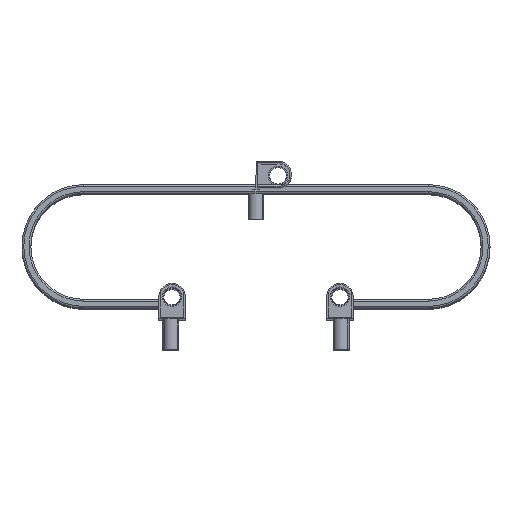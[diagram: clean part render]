
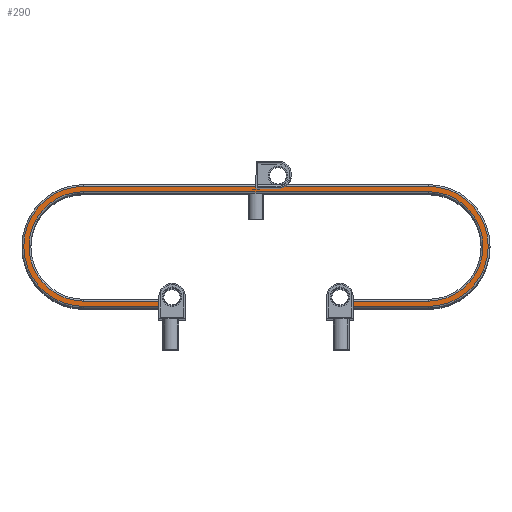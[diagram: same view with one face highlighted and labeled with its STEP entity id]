
A CAD part, top view. The second image highlights one B-rep face of the part: STEP entity #290.
In plain terms, the highlighted planar face has unit normal (0, 0, 1).
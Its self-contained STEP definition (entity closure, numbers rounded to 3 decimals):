
#290 = ADVANCED_FACE( '', ( #378 ), #379, .T. );
#378 = FACE_OUTER_BOUND( '', #516, .T. );
#379 = PLANE( '', #517 );
#516 = EDGE_LOOP( '', ( #681, #682, #683, #684, #685, #686, #687, #688, #689, #690, #691, #692 ) );
#517 = AXIS2_PLACEMENT_3D( '', #693, #694, #695 );
#681 = ORIENTED_EDGE( '', *, *, #1125, .F. );
#682 = ORIENTED_EDGE( '', *, *, #1131, .T. );
#683 = ORIENTED_EDGE( '', *, *, #1132, .T. );
#684 = ORIENTED_EDGE( '', *, *, #1133, .T. );
#685 = ORIENTED_EDGE( '', *, *, #1134, .T. );
#686 = ORIENTED_EDGE( '', *, *, #1120, .T. );
#687 = ORIENTED_EDGE( '', *, *, #1112, .T. );
#688 = ORIENTED_EDGE( '', *, *, #1135, .T. );
#689 = ORIENTED_EDGE( '', *, *, #1136, .T. );
#690 = ORIENTED_EDGE( '', *, *, #1137, .T. );
#691 = ORIENTED_EDGE( '', *, *, #1138, .T. );
#692 = ORIENTED_EDGE( '', *, *, #1139, .T. );
#693 = CARTESIAN_POINT( '', ( 110.081, -135., 15. ) );
#694 = DIRECTION( '', ( 0., 0., 1. ) );
#695 = DIRECTION( '', ( 0., -1., 0. ) );
#1112 = EDGE_CURVE( '', #1258, #1259, #1260, .F. );
#1120 = EDGE_CURVE( '', #1274, #1258, #1275, .F. );
#1125 = EDGE_CURVE( '', #1282, #1284, #1285, .F. );
#1131 = EDGE_CURVE( '', #1282, #1295, #1296, .F. );
#1132 = EDGE_CURVE( '', #1295, #1297, #1298, .F. );
#1133 = EDGE_CURVE( '', #1297, #1299, #1300, .F. );
#1134 = EDGE_CURVE( '', #1299, #1274, #1301, .F. );
#1135 = EDGE_CURVE( '', #1259, #1302, #1303, .T. );
#1136 = EDGE_CURVE( '', #1302, #1304, #1305, .T. );
#1137 = EDGE_CURVE( '', #1304, #1306, #1307, .T. );
#1138 = EDGE_CURVE( '', #1306, #1308, #1309, .T. );
#1139 = EDGE_CURVE( '', #1308, #1284, #1310, .T. );
#1258 = VERTEX_POINT( '', #1478 );
#1259 = VERTEX_POINT( '', #1479 );
#1260 = LINE( '', #1480, #1481 );
#1274 = VERTEX_POINT( '', #1498 );
#1275 = LINE( '', #1499, #1500 );
#1282 = VERTEX_POINT( '', #1509 );
#1284 = VERTEX_POINT( '', #1511 );
#1285 = LINE( '', #1512, #1513 );
#1295 = VERTEX_POINT( '', #1525 );
#1296 = LINE( '', #1526, #1527 );
#1297 = VERTEX_POINT( '', #1528 );
#1298 = CIRCLE( '', #1529, 62. );
#1299 = VERTEX_POINT( '', #1530 );
#1300 = LINE( '', #1531, #1532 );
#1301 = CIRCLE( '', #1533, 62. );
#1302 = VERTEX_POINT( '', #1534 );
#1303 = LINE( '', #1535, #1536 );
#1304 = VERTEX_POINT( '', #1537 );
#1305 = CIRCLE( '', #1538, 68. );
#1306 = VERTEX_POINT( '', #1539 );
#1307 = LINE( '', #1540, #1541 );
#1308 = VERTEX_POINT( '', #1542 );
#1309 = CIRCLE( '', #1543, 68. );
#1310 = LINE( '', #1544, #1545 );
#1478 = CARTESIAN_POINT( '', ( 110.081, -127., 15. ) );
#1479 = CARTESIAN_POINT( '', ( 110.081, -133., 15. ) );
#1480 = CARTESIAN_POINT( '', ( 110.081, -135., 15. ) );
#1481 = VECTOR( '', #1780, 1000. );
#1498 = CARTESIAN_POINT( '', ( 195.081, -127., 15. ) );
#1499 = CARTESIAN_POINT( '', ( 110.081, -127., 15. ) );
#1500 = VECTOR( '', #1796, 1000. );
#1509 = CARTESIAN_POINT( '', ( -110.081, -127., 15. ) );
#1511 = CARTESIAN_POINT( '', ( -110.081, -133., 15. ) );
#1512 = CARTESIAN_POINT( '', ( -110.081, -135., 15. ) );
#1513 = VECTOR( '', #1805, 1000. );
#1525 = CARTESIAN_POINT( '', ( -195.081, -127., 15. ) );
#1526 = CARTESIAN_POINT( '', ( 110.081, -127., 15. ) );
#1527 = VECTOR( '', #1817, 1000. );
#1528 = CARTESIAN_POINT( '', ( -195.081, -3., 15. ) );
#1529 = AXIS2_PLACEMENT_3D( '', #1818, #1819, #1820 );
#1530 = CARTESIAN_POINT( '', ( 195.081, -3., 15. ) );
#1531 = CARTESIAN_POINT( '', ( 110.081, -3., 15. ) );
#1532 = VECTOR( '', #1821, 1000. );
#1533 = AXIS2_PLACEMENT_3D( '', #1822, #1823, #1824 );
#1534 = CARTESIAN_POINT( '', ( 195.081, -133., 15. ) );
#1535 = CARTESIAN_POINT( '', ( 110.081, -133., 15. ) );
#1536 = VECTOR( '', #1825, 1000. );
#1537 = CARTESIAN_POINT( '', ( 195.081, 3., 15. ) );
#1538 = AXIS2_PLACEMENT_3D( '', #1826, #1827, #1828 );
#1539 = CARTESIAN_POINT( '', ( -195.081, 3., 15. ) );
#1540 = CARTESIAN_POINT( '', ( 110.081, 3., 15. ) );
#1541 = VECTOR( '', #1829, 1000. );
#1542 = CARTESIAN_POINT( '', ( -195.081, -133., 15. ) );
#1543 = AXIS2_PLACEMENT_3D( '', #1830, #1831, #1832 );
#1544 = CARTESIAN_POINT( '', ( 110.081, -133., 15. ) );
#1545 = VECTOR( '', #1833, 1000. );
#1780 = DIRECTION( '', ( 0., 1., 0. ) );
#1796 = DIRECTION( '', ( 1., 0., 0. ) );
#1805 = DIRECTION( '', ( 0., 1., 0. ) );
#1817 = DIRECTION( '', ( 1., 0., 0. ) );
#1818 = CARTESIAN_POINT( '', ( -195.081, -65., 15. ) );
#1819 = DIRECTION( '', ( 0., 0., 1. ) );
#1820 = DIRECTION( '', ( 0., -1., 0. ) );
#1821 = DIRECTION( '', ( -1., 0., 0. ) );
#1822 = CARTESIAN_POINT( '', ( 195.081, -65., 15. ) );
#1823 = DIRECTION( '', ( 0., 0., 1. ) );
#1824 = DIRECTION( '', ( 0., -1., 0. ) );
#1825 = DIRECTION( '', ( 1., 0., 0. ) );
#1826 = CARTESIAN_POINT( '', ( 195.081, -65., 15. ) );
#1827 = DIRECTION( '', ( 0., 0., 1. ) );
#1828 = DIRECTION( '', ( 0., -1., 0. ) );
#1829 = DIRECTION( '', ( -1., 0., 0. ) );
#1830 = CARTESIAN_POINT( '', ( -195.081, -65., 15. ) );
#1831 = DIRECTION( '', ( 0., 0., 1. ) );
#1832 = DIRECTION( '', ( 0., -1., 0. ) );
#1833 = DIRECTION( '', ( 1., 0., 0. ) );
